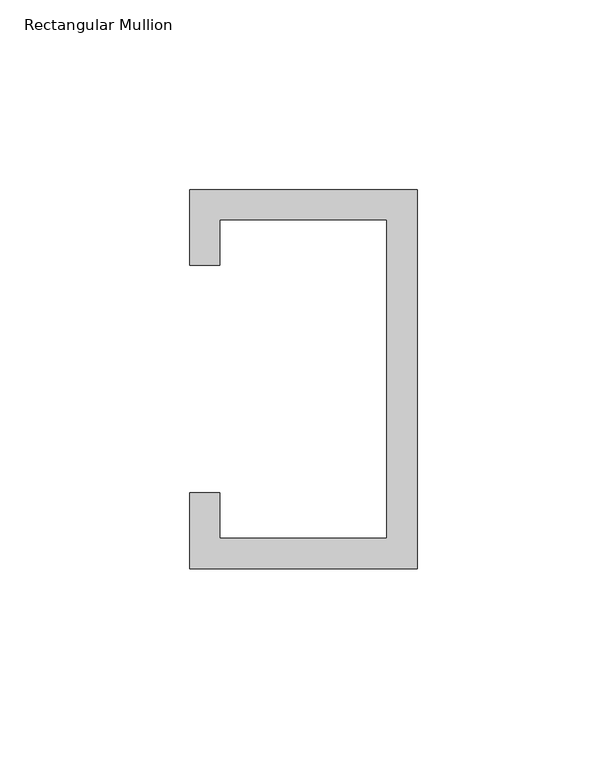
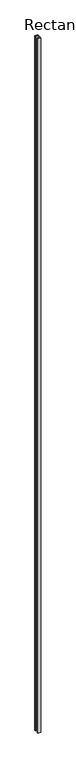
"""IFC4 building model written with IfcOpenShell, lengths in millimetres: member geometry, Rectangular Mullion : TERÇA METÁLICA 10CM."""

from ifc_helpers import new_model, si_unit, frame, origin, place, context, project, spatial, polyline, outline, extrude, source, transform, mapped, element, save


def rectangular_mullion_12f81c36(model_context):
    return source(origin(), model_context, "Body", "SweptSolid", [
        extrude(outline(polyline([(0.0, 0.0), (0.0, -100.0), (-60.0, -100.0), (-60.0, -80.0), (-52.0, -80.0), (-52.0, -92.0), (-8.0, -92.0), (-8.0, -8.0), (-52.0, -8.0), (-52.0, -20.0), (-60.0, -20.0), (-60.0, 0.0), (0.0, 0.0)])), frame((0.0, 0.0, -14652.0975043), z_axis=(0.0, 0.0, 1.0), x_axis=(1.0, 0.0, 0.0)), (0.0, 0.0, 1.0), 14652.0975043),
    ])


if __name__ == "__main__":
    model = new_model("IFC4")
    model_context = context("Model", 3, world=origin())
    ifc_project = project(units=[si_unit("LENGTHUNIT", "METRE", prefix="MILLI")], contexts=[model_context])
    site = spatial("IfcSite", under=ifc_project)
    building = spatial("IfcBuilding", under=site)
    placement = place(None, origin())
    rectangular_mullion_shape = rectangular_mullion_12f81c36(model_context)
    element("IfcMember", 1, ObjectType="Rectangular Mullion : TERÇA METÁLICA 10CM", at=placement, inside=building, context=model_context, shape_type="MappedRepresentation", body=[
        mapped(rectangular_mullion_shape, transform((0.0, 0.0, 0.0), x_axis=(1.0, 0.0, 0.0), y_axis=(0.0, 1.0, 0.0), z_axis=(0.0, 0.0, 1.0))),
    ])
    save(model, "model.ifc")
